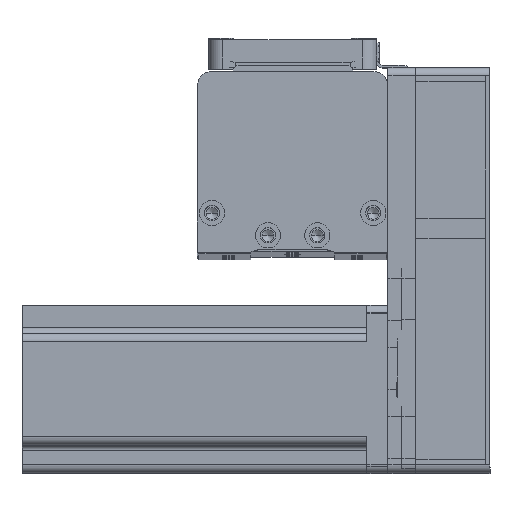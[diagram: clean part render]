
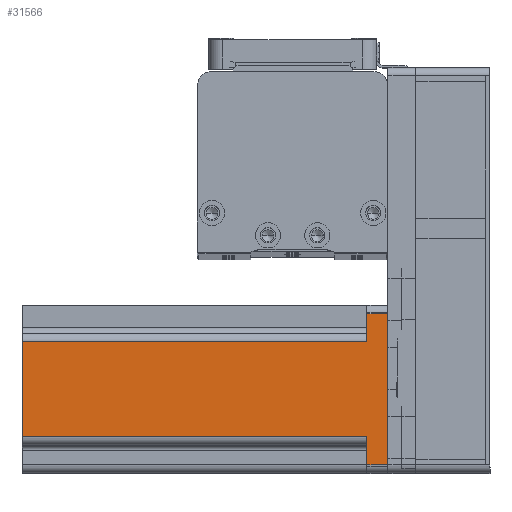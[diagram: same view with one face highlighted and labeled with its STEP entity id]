
A CAD part, top view. The second image highlights one B-rep face of the part: STEP entity #31566.
In plain terms, the highlighted planar face has unit normal (0, 0, 1) as drawn and (0, 1, 0) by its records, which use the part's own axes.
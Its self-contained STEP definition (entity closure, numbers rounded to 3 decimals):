
#447 = VERTEX_POINT ( 'NONE', #7673 ) ;
#676 = CARTESIAN_POINT ( 'NONE',  ( -17., 30., 130.7 ) ) ;
#898 = VECTOR ( 'NONE', #28452, 1000. ) ;
#935 = CARTESIAN_POINT ( 'NONE',  ( 17., 30., 7.5 ) ) ;
#1341 = ORIENTED_EDGE ( 'NONE', *, *, #18951, .F. ) ;
#1651 = VECTOR ( 'NONE', #34803, 1000. ) ;
#2304 = ORIENTED_EDGE ( 'NONE', *, *, #3194, .T. ) ;
#2326 = VERTEX_POINT ( 'NONE', #935 ) ;
#3145 = VECTOR ( 'NONE', #18772, 1000. ) ;
#3194 = EDGE_CURVE ( 'NONE', #20325, #2326, #45914, .T. ) ;
#3878 = LINE ( 'NONE', #28301, #34333 ) ;
#5499 = EDGE_CURVE ( 'NONE', #447, #22456, #10148, .T. ) ;
#5914 = DIRECTION ( 'NONE',  ( 1., 0., 0. ) ) ;
#7157 = ORIENTED_EDGE ( 'NONE', *, *, #31403, .F. ) ;
#7673 = CARTESIAN_POINT ( 'NONE',  ( -27., 30., 0. ) ) ;
#7798 = DIRECTION ( 'NONE',  ( 0., 0., -1. ) ) ;
#8861 = DIRECTION ( 'NONE',  ( 0., -1., 0. ) ) ;
#8977 = LINE ( 'NONE', #676, #898 ) ;
#10148 = LINE ( 'NONE', #25833, #19457 ) ;
#10645 = EDGE_LOOP ( 'NONE', ( #39644, #13825, #7157, #2304, #1341, #14885, #13144, #11685 ) ) ;
#11685 = ORIENTED_EDGE ( 'NONE', *, *, #5499, .T. ) ;
#13144 = ORIENTED_EDGE ( 'NONE', *, *, #30618, .T. ) ;
#13282 = VERTEX_POINT ( 'NONE', #32655 ) ;
#13423 = LINE ( 'NONE', #30791, #1651 ) ;
#13825 = ORIENTED_EDGE ( 'NONE', *, *, #39712, .T. ) ;
#13985 = CARTESIAN_POINT ( 'NONE',  ( 27., 30., 7.5 ) ) ;
#14838 = VECTOR ( 'NONE', #5914, 1000. ) ;
#14885 = ORIENTED_EDGE ( 'NONE', *, *, #41984, .T. ) ;
#15452 = VECTOR ( 'NONE', #7798, 1000. ) ;
#16784 = VERTEX_POINT ( 'NONE', #29989 ) ;
#18387 = LINE ( 'NONE', #35576, #27680 ) ;
#18598 = CARTESIAN_POINT ( 'NONE',  ( 30., 30., 130.7 ) ) ;
#18772 = DIRECTION ( 'NONE',  ( -1., 0., 0. ) ) ;
#18951 = EDGE_CURVE ( 'NONE', #36725, #2326, #3878, .T. ) ;
#19457 = VECTOR ( 'NONE', #37860, 1000. ) ;
#20325 = VERTEX_POINT ( 'NONE', #47103 ) ;
#21490 = AXIS2_PLACEMENT_3D ( 'NONE', #32668, #8861, #36665 ) ;
#22456 = VERTEX_POINT ( 'NONE', #23241 ) ;
#23241 = CARTESIAN_POINT ( 'NONE',  ( -27., 30., 7.5 ) ) ;
#24236 = LINE ( 'NONE', #18598, #3145 ) ;
#24617 = EDGE_CURVE ( 'NONE', #22456, #13282, #36023, .T. ) ;
#25833 = CARTESIAN_POINT ( 'NONE',  ( -27., 30., 130.7 ) ) ;
#27528 = DIRECTION ( 'NONE',  ( 0., 0., -1. ) ) ;
#27680 = VECTOR ( 'NONE', #27528, 1000. ) ;
#28301 = CARTESIAN_POINT ( 'NONE',  ( 20., 30., 7.5 ) ) ;
#28452 = DIRECTION ( 'NONE',  ( 0., 0., 1. ) ) ;
#29663 = CARTESIAN_POINT ( 'NONE',  ( -20., 30., 7.5 ) ) ;
#29989 = CARTESIAN_POINT ( 'NONE',  ( 27., 30., 0. ) ) ;
#30618 = EDGE_CURVE ( 'NONE', #16784, #447, #13423, .T. ) ;
#30791 = CARTESIAN_POINT ( 'NONE',  ( 30., 30., 0. ) ) ;
#31403 = EDGE_CURVE ( 'NONE', #20325, #38999, #24236, .T. ) ;
#31566 = ADVANCED_FACE ( 'NONE', ( #47220 ), #36503, .F. ) ;
#32655 = CARTESIAN_POINT ( 'NONE',  ( -17., 30., 7.5 ) ) ;
#32668 = CARTESIAN_POINT ( 'NONE',  ( 30., 30., 130.7 ) ) ;
#34333 = VECTOR ( 'NONE', #40313, 1000. ) ;
#34803 = DIRECTION ( 'NONE',  ( -1., 0., 0. ) ) ;
#35576 = CARTESIAN_POINT ( 'NONE',  ( 27., 30., 130.7 ) ) ;
#36023 = LINE ( 'NONE', #29663, #14838 ) ;
#36503 = PLANE ( 'NONE',  #21490 ) ;
#36665 = DIRECTION ( 'NONE',  ( 1., 0., 0. ) ) ;
#36725 = VERTEX_POINT ( 'NONE', #13985 ) ;
#37860 = DIRECTION ( 'NONE',  ( 0., 0., 1. ) ) ;
#38999 = VERTEX_POINT ( 'NONE', #46258 ) ;
#39644 = ORIENTED_EDGE ( 'NONE', *, *, #24617, .T. ) ;
#39712 = EDGE_CURVE ( 'NONE', #13282, #38999, #8977, .T. ) ;
#39738 = CARTESIAN_POINT ( 'NONE',  ( 17., 30., 130.7 ) ) ;
#40313 = DIRECTION ( 'NONE',  ( -1., 0., 0. ) ) ;
#41984 = EDGE_CURVE ( 'NONE', #36725, #16784, #18387, .T. ) ;
#45914 = LINE ( 'NONE', #39738, #15452 ) ;
#46258 = CARTESIAN_POINT ( 'NONE',  ( -17., 30., 130.7 ) ) ;
#47103 = CARTESIAN_POINT ( 'NONE',  ( 17., 30., 130.7 ) ) ;
#47220 = FACE_OUTER_BOUND ( 'NONE', #10645, .T. ) ;
